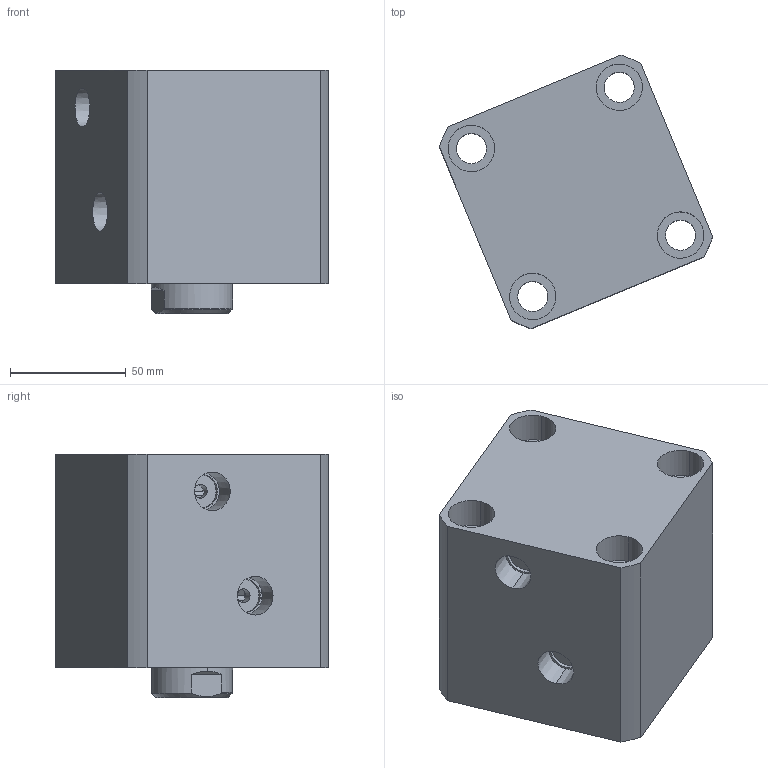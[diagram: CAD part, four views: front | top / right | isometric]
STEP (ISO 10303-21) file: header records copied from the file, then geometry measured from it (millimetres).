
FILE_DESCRIPTION (( 'STEP AP214' ), '1' );
FILE_NAME ('chtb-sd63x25n_asm.STEP', '2018-05-10T01:47:20', ( 'Windows' ), ( 'Microsoft' ), 'SwSTEP 2.0', 'SolidWorks 2015', '' );
FILE_SCHEMA (( 'AUTOMOTIVE_DESIGN' ));
Length unit declared in the file: millimetre
Products named in the file (4): CHTB-63QG; chtb-sd63x25n_asm; CHTB63X25NHSG; CHTB63X25NBT
Assembly tree (3 placements, depth 2):
  chtb-sd63x25n_asm
    CHTB-63QG
    CHTB63X25NBT
    CHTB63X25NHSG
Bounding box: 117.81 x 117.81 x 105 mm (x, y, z)
Volume: 681675.5 mm3; surface area: 123729 mm2
Topology: 3 solids, 3 shells, 165 faces, 465 edges, 318 vertices
Faces by surface type: cylinder 101, plane 33, bspline 12, cone 12, torus 7
Entity records: 17638 total; most frequent: CARTESIAN_POINT 13505, ORIENTED_EDGE 918, DIRECTION 719, EDGE_CURVE 459, VERTEX_POINT 318, AXIS2_PLACEMENT_3D 291, EDGE_LOOP 197, FACE_OUTER_BOUND 165
